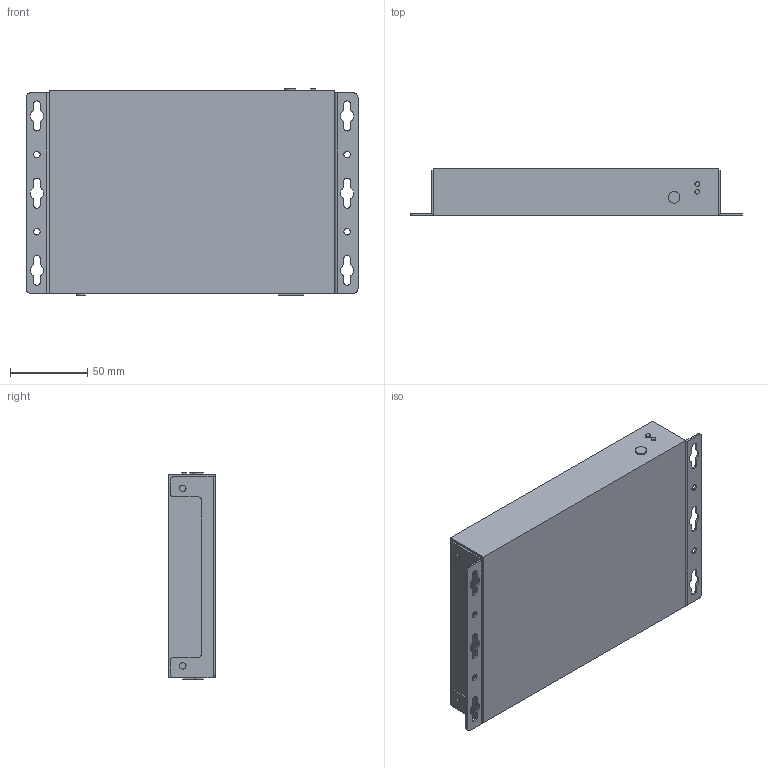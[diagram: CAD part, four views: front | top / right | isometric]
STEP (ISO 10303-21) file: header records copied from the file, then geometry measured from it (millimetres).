
FILE_DESCRIPTION (( 'STEP AP214' ), '1' );
FILE_NAME ('FG-901651-3D (OVER SURFACE).STEP', '2026-05-19T19:58:06', ( '' ), ( '' ), 'SwSTEP 2.0', 'SolidWorks 2023', '' );
FILE_SCHEMA (( 'AUTOMOTIVE_DESIGN' ));
Length unit declared in the file: millimetre
Products named in the file (3): FG-901651-3D (OVER SURFACE); CH-008359-02; FG-3D_DECODER
Assembly tree (3 placements, depth 2):
  FG-901651-3D (OVER SURFACE)
    FG-3D_DECODER
    CH-008359-02  x2
Bounding box: 215 x 30.5 x 133.5 mm (x, y, z)
Volume: 747260.1 mm3; surface area: 85691.8 mm2
Topology: 3 solids, 3 shells, 1965 faces, 4088 edges, 2720 vertices
Faces by surface type: cylinder 1221, plane 728, cone 16
Entity records: 51611 total; most frequent: DIRECTION 10147, CARTESIAN_POINT 8439, ORIENTED_EDGE 7838, AXIS2_PLACEMENT_3D 4318, EDGE_CURVE 3919, VERTEX_POINT 2610, EDGE_LOOP 2509, CIRCLE 2408
